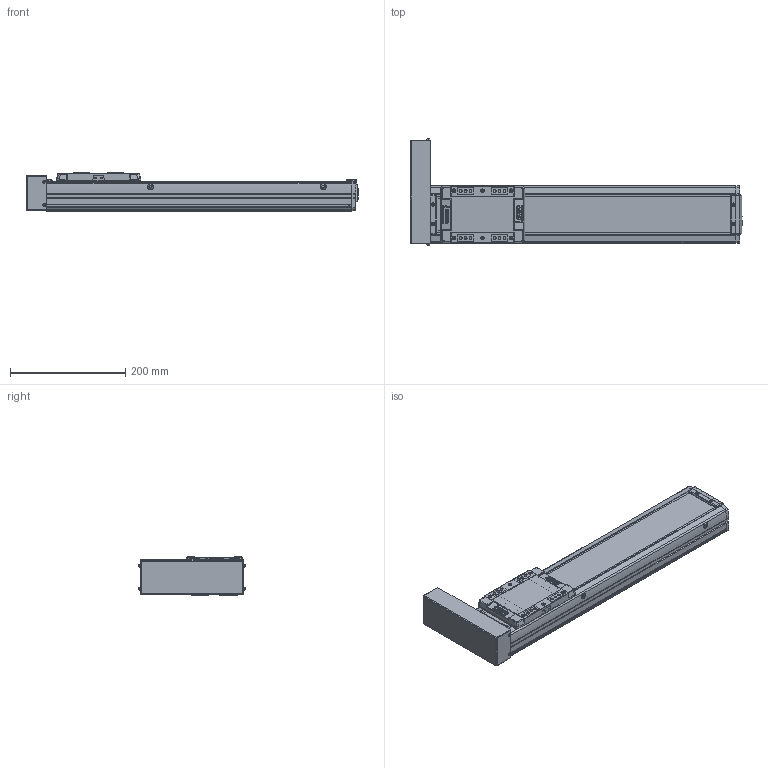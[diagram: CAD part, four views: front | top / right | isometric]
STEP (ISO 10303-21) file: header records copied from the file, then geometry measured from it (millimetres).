
FILE_DESCRIPTION(('STEP AP214'),'1');
FILE_NAME('Z:/Web/3D/SAN100/SAN100 양산용 (STEP)/SAN100ㅁㅁ-350PL.stp','2013-05-08T06:28:03',(' '),(' '),'Spatial InterOp 3D',' ',' ');
FILE_SCHEMA(('automotive_design'));
Length unit declared in the file: millimetre
Products named in the file (31): SUS COVER; SFX-SAN100; RRCV-SAN100; 스크루 : Round - M4.0 x 10.0; M3.0 x 6.0; 스크루 : Round - M3.0 x 6.0; FRBL-SAN100; SLBL-SAN100; SLCV-SAN100; 스크루 : Countersunk - M3.0 x 6.0; BASE; 스크루 : Round - M5.0 x 6.0; BTCV-SAN65; BHCS M3 X 6L
Bounding box: 576.5 x 184.13 x 66 mm (x, y, z)
Volume: 1912156.4 mm3; surface area: 438217.5 mm2
Topology: 31 solids, 32 shells, 1856 faces, 4840 edges, 3115 vertices
Faces by surface type: plane 927, cylinder 689, cone 162, sphere 44, torus 18, bspline 16
Entity records: 73174 total; most frequent: CARTESIAN_POINT 11084, DIRECTION 10199, ORIENTED_EDGE 9516, EDGE_CURVE 4758, AXIS2_PLACEMENT_3D 3651, VERTEX_POINT 3115, LINE 2897, VECTOR 2897
